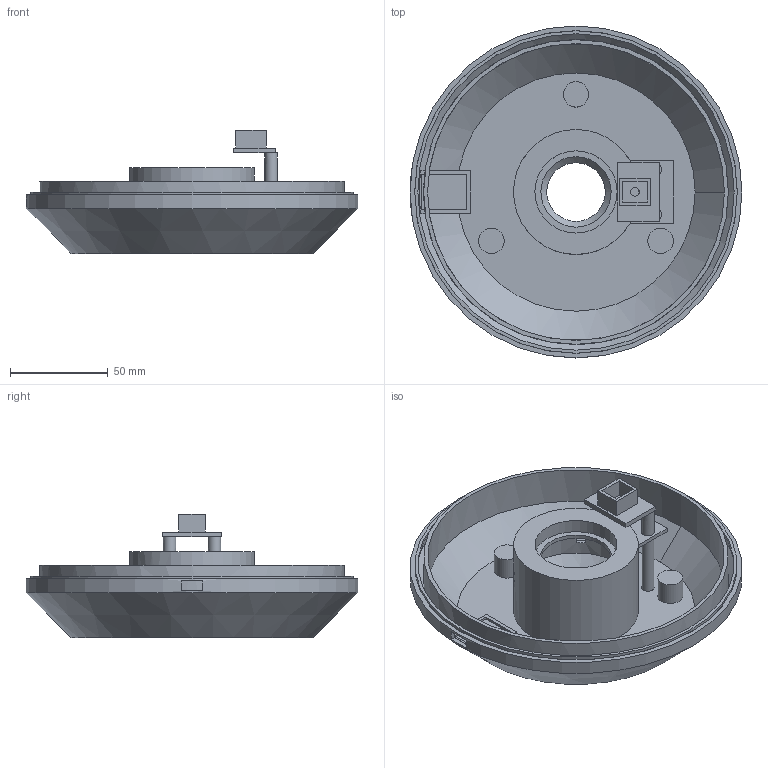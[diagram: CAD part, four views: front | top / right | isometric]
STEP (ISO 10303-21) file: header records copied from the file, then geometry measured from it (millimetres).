
FILE_DESCRIPTION(('Open CASCADE Model'),'2;1');
FILE_NAME('Open CASCADE Shape Model','2026-10-20T19:46:47',('Author'),( 'Open CASCADE'),'Open CASCADE STEP processor 8.0','build123d', 'Unknown');
FILE_SCHEMA(('AUTOMOTIVE_DESIGN { 1 0 10303 214 1 1 1 1 }'));
Length unit declared in the file: millimetre
Products named in the file (2): =>[0:1:1:2]; COMPOUND
Assembly tree (1 placements, depth 2):
  =>[0:1:1:2]
    COMPOUND
Bounding box: 170 x 170 x 63 mm (x, y, z)
Volume: 138991.6 mm3; surface area: 112914.7 mm2
Topology: 2 solids, 2 shells, 100 faces, 239 edges, 155 vertices
Faces by surface type: plane 63, cylinder 31, cone 6
Full cylindrical faces by diameter (mm): 3.2 x2, 4.4 x1, 6.4 x4, 8.3 x3, 13 x3, 30 x1, 36 x1, 42.1 x1, 60 x2, 64 x1, 152 x1, 156 x1, 162 x1, 165.1 x1, 165.2 x1, 170 x1
Entity records: 6516 total; most frequent: CARTESIAN_POINT 1590, DIRECTION 929, ORIENTED_EDGE 478, PCURVE 478, DEFINITIONAL_REPRESENTATION 478, LINE 439, VECTOR 439, EDGE_CURVE 239
